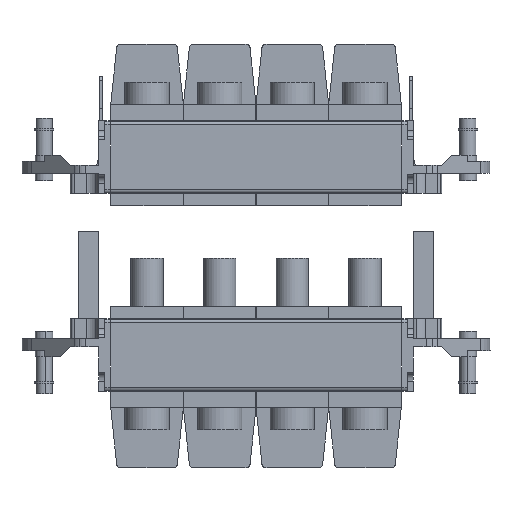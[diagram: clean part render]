
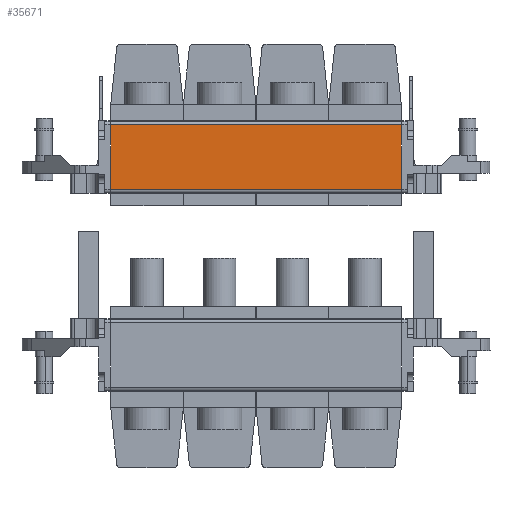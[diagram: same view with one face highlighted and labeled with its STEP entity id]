
A CAD part, front view. The second image highlights one B-rep face of the part: STEP entity #35671.
In plain terms, the highlighted planar face has unit normal (0, -1, 0).
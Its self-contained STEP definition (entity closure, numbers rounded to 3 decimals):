
#30991=CARTESIAN_POINT(' ',(-36.,-17.5,4.));
#30992=VERTEX_POINT(' ',#30991);
#31006=CARTESIAN_POINT(' ',(-36.,-17.5,20.));
#31011=DIRECTION(' ',(0.,0.,-1.));
#31016=VECTOR(' ',#31011,1.);
#31021=LINE('',#31006,#31016);
#31026=CARTESIAN_POINT(' ',(-36.,-17.5,20.));
#31027=VERTEX_POINT(' ',#31026);
#31031=EDGE_CURVE(' ',#31027,#30992,#31021,.T.);
#32741=CARTESIAN_POINT(' ',(36.,-17.5,20.));
#32742=VERTEX_POINT(' ',#32741);
#32756=CARTESIAN_POINT(' ',(36.,-17.5,20.));
#32761=DIRECTION(' ',(0.,0.,-1.));
#32766=VECTOR(' ',#32761,1.);
#32771=LINE('',#32756,#32766);
#32776=CARTESIAN_POINT(' ',(36.,-17.5,4.));
#32777=VERTEX_POINT(' ',#32776);
#32781=EDGE_CURVE(' ',#32742,#32777,#32771,.T.);
#34646=CARTESIAN_POINT(' ',(36.,-17.5,4.));
#34651=DIRECTION(' ',(-1.,0.,0.));
#34656=VECTOR(' ',#34651,1.);
#34661=LINE('',#34646,#34656);
#34666=EDGE_CURVE(' ',#32777,#30992,#34661,.T.);
#35591=DIRECTION(' ',(0.,-1.,0.));
#35596=CARTESIAN_POINT(' ',(36.,-17.5,4.));
#35601=DIRECTION(' ',(0.,0.,1.));
#35606=AXIS2_PLACEMENT_3D(' ',#35596,#35591,#35601);
#35611=PLANE('NONE',#35606);
#35616=CARTESIAN_POINT(' ',(-36.,-17.5,20.));
#35621=DIRECTION(' ',(1.,0.,0.));
#35626=VECTOR(' ',#35621,1.);
#35631=LINE('',#35616,#35626);
#35636=EDGE_CURVE(' ',#31027,#32742,#35631,.T.);
#35641=ORIENTED_EDGE(' ',*,*,#35636,.F.);
#35646=ORIENTED_EDGE(' ',*,*,#31031,.T.);
#35651=ORIENTED_EDGE(' ',*,*,#34666,.F.);
#35656=ORIENTED_EDGE(' ',*,*,#32781,.F.);
#35661=EDGE_LOOP(' ',(#35641,#35646,#35651,#35656));
#35666=FACE_OUTER_BOUND(' ',#35661,.T.);
#35671=ADVANCED_FACE('NONE',(#35666),#35611,.T.);
